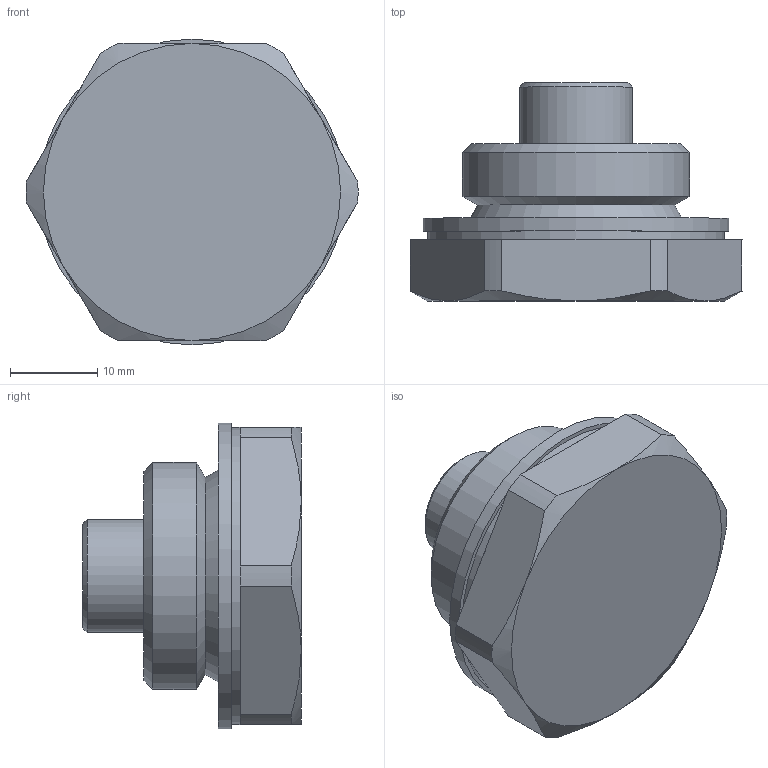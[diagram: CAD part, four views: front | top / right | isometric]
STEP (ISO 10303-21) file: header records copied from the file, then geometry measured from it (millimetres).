
FILE_DESCRIPTION(/* description */ (''),/* implementation_level */ '2;1');
FILE_NAME(/* name */ 'W:\ARCHIVIO UFFICIO TECNICO\ARTICOLI DI PRODUZIONE\COMPLESSIVI ARTICOLI STANDARD\TMA\TMA_34.stp',/* time_stamp */ '2022-12-13T16:31:17+01:00',/* author */ ('tecnico'),/* organization */ (''),/* preprocessor_version */ 'ST-DEVELOPER v18',/* originating_system */ 'Autodesk Inventor 2020',/* authorisation */ '');
FILE_SCHEMA (('AUTOMOTIVE_DESIGN { 1 0 10303 214 3 1 1 }'));
Length unit declared in the file: millimetre
Products named in the file (1): TMA_34_Shrinkwrap_1
Bounding box: 37.99 x 25 x 35 mm (x, y, z)
Volume: 14209.6 mm3; surface area: 5225.2 mm2
Topology: 2 solids, 2 shells, 43 faces, 99 edges, 62 vertices
Faces by surface type: plane 18, cone 13, cylinder 12
Full cylindrical faces by diameter (mm): 12.9 x1, 13 x1, 26 x2, 34 x1, 35 x1
Entity records: 1319 total; most frequent: CARTESIAN_POINT 228, DIRECTION 223, ORIENTED_EDGE 196, EDGE_CURVE 98, AXIS2_PLACEMENT_3D 93, VERTEX_POINT 62, CIRCLE 49, EDGE_LOOP 46
